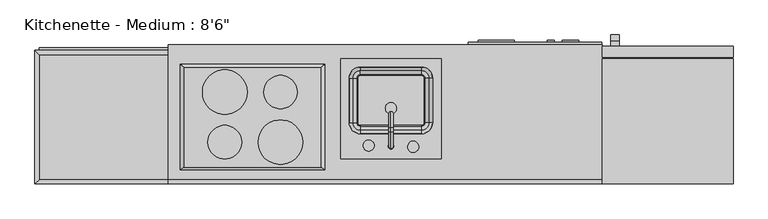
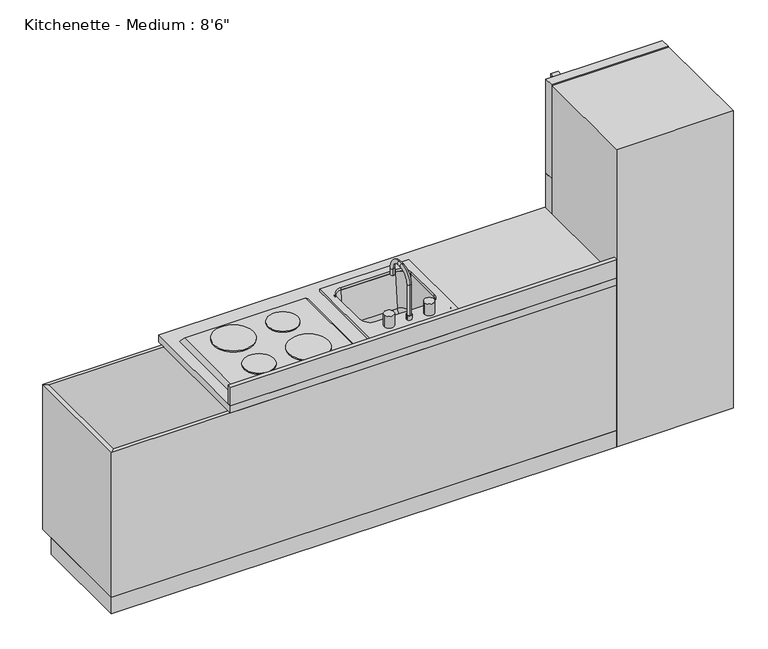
"""IFC4 building model written with IfcOpenShell, lengths in millimetres: proxy geometry."""

import ifcopenshell
import ifcopenshell.guid

model = None  # the IFC model being written
_history = None  # IfcOwnerHistory: only IFC2X3 demands one
_inside = {}  # id of a spatial element -> (the spatial element, [elements in it])
_under = {}  # id of a project, library or spatial element -> (it, [spatial elements below it])
_declared = {}  # id of a project -> (the project, [libraries it declares])
_typed = {}  # id of a type object -> (the type object, [elements of that type])
_made_of = {}  # id of a material, layer set ... -> (it, [elements and type objects made of it])


def new_model(schema):
    """Start an empty IFC model of exactly this schema.

    Asked for "IFC4X3", IfcOpenShell would pick the latest addendum, in which some entities
    have other attributes; the version numbers below select the first issue.
    IFC2X3 requires an IfcOwnerHistory on every rooted entity: one is made here for all.
    """
    global model, _history
    if schema == "IFC4X3":
        model = ifcopenshell.file(schema_version=(4, 3, 0, 0))
    else:
        model = ifcopenshell.file(schema=schema)
    _inside.clear()
    _under.clear()
    _declared.clear()
    _typed.clear()
    _made_of.clear()
    _history = None
    if model.schema == "IFC2X3":
        org = make("IfcOrganization", Name="unknown")
        user = make(
            "IfcPersonAndOrganization",
            ThePerson=make("IfcPerson", FamilyName="unknown"),
            TheOrganization=org,
        )
        app = make(
            "IfcApplication",
            ApplicationDeveloper=org,
            Version="unknown",
            ApplicationFullName="unknown",
            ApplicationIdentifier="unknown",
        )
        _history = make(
            "IfcOwnerHistory",
            OwningUser=user,
            OwningApplication=app,
            ChangeAction="ADDED",
            CreationDate=0,
        )
    return model


def make(cls, **values):
    """One entity of the class cls with the attributes given. An attribute that is None is left unset."""
    return model.create_entity(
        cls, **{name: value for name, value in values.items() if value is not None}
    )


def rooted(cls, **values):
    """An entity with a GlobalId (a new one), such as an element, a storey or a relation."""
    return make(cls, GlobalId=ifcopenshell.guid.new(), OwnerHistory=_history, **values)


def si_unit(unit_type, name, prefix=None):
    """IfcSIUnit, for example si_unit("LENGTHUNIT", "METRE", prefix="MILLI")."""
    return make("IfcSIUnit", UnitType=unit_type, Prefix=prefix, Name=name)


def assignment(units):
    """IfcUnitAssignment: the units of a project."""
    return None if units is None else make("IfcUnitAssignment", Units=units)


def point(xyz):
    """IfcCartesianPoint."""
    return None if xyz is None else make("IfcCartesianPoint", Coordinates=xyz)


def direction(xyz):
    """IfcDirection."""
    return None if xyz is None else make("IfcDirection", DirectionRatios=xyz)


def frame(location, z_axis=None, x_axis=None):
    """IfcAxis2Placement3D, a coordinate frame: its origin and axes. An axis left out is left unset."""
    return make(
        "IfcAxis2Placement3D",
        Location=point(location),
        Axis=direction(z_axis),
        RefDirection=direction(x_axis),
    )


def frame_2d(location, x_axis=None):
    """IfcAxis2Placement2D, a coordinate frame in the plane: its origin and x axis."""
    return make(
        "IfcAxis2Placement2D", Location=point(location), RefDirection=direction(x_axis)
    )


def origin():
    """The frame at (0, 0, 0) with its axes left unset."""
    return frame((0.0, 0.0, 0.0))


def origin_with_axes():
    """The frame at (0, 0, 0) with the z axis (0, 0, 1) and the x axis (1, 0, 0) written out."""
    return frame((0.0, 0.0, 0.0), z_axis=(0.0, 0.0, 1.0), x_axis=(1.0, 0.0, 0.0))


def place(relative_to, where):
    """IfcLocalPlacement: puts the frame where relative to a parent placement (None: the world)."""
    return make(
        "IfcLocalPlacement", PlacementRelTo=relative_to, RelativePlacement=where
    )


def context(
    kind, dimensions, precision=None, world=None, true_north=None, identifier=None
):
    """IfcGeometricRepresentationContext, for example the 3D "Model" context."""
    return make(
        "IfcGeometricRepresentationContext",
        ContextIdentifier=identifier,
        ContextType=kind,
        CoordinateSpaceDimension=dimensions,
        Precision=precision,
        WorldCoordinateSystem=world,
        TrueNorth=true_north,
    )


def project(units=None, contexts=None):
    """IfcProject with its units and contexts."""
    return rooted(
        "IfcProject",
        Name="project",
        RepresentationContexts=contexts,
        UnitsInContext=assignment(units),
    )


def spatial(cls, under=None, at=None, **own):
    """A site, building, storey or space (cls), placed at a placement, below another one or the project."""
    s = rooted(cls, ObjectPlacement=at, **own)
    if under is not None:
        _under.setdefault(under.id(), (under, []))[1].append(s)
    return s


def polyline(points):
    """IfcPolyline through the points."""
    return make("IfcPolyline", Points=[point(p) for p in points])


def circle_curve(where, radius):
    """IfcCircle in the frame where."""
    return make("IfcCircle", Position=where, Radius=radius)


def ellipse_curve(where, semi_axis1, semi_axis2):
    """IfcEllipse in the frame where."""
    return make(
        "IfcEllipse", Position=where, SemiAxis1=semi_axis1, SemiAxis2=semi_axis2
    )


def trimmed(basis, trim1, trim2, sense, master):
    """IfcTrimmedCurve: the piece of a basis curve between two trims."""
    return make(
        "IfcTrimmedCurve",
        BasisCurve=basis,
        Trim1=trim1,
        Trim2=trim2,
        SenseAgreement=sense,
        MasterRepresentation=master,
    )


def segment(curve, same_sense, transition):
    """IfcCompositeCurveSegment."""
    return make(
        "IfcCompositeCurveSegment",
        Transition=transition,
        SameSense=same_sense,
        ParentCurve=curve,
    )


def composite_curve(segments, self_intersect=None):
    """IfcCompositeCurve: segments joined end to end."""
    return make("IfcCompositeCurve", Segments=segments, SelfIntersect=self_intersect)


def outline(outer, holes=None, kind="AREA"):
    """IfcArbitraryClosedProfileDef: a profile drawn as a closed curve; with holes, ...WithVoids."""
    if holes is None:
        return make("IfcArbitraryClosedProfileDef", ProfileType=kind, OuterCurve=outer)
    return make(
        "IfcArbitraryProfileDefWithVoids",
        ProfileType=kind,
        OuterCurve=outer,
        InnerCurves=holes,
    )


def extrude(swept, where, along, depth):
    """IfcExtrudedAreaSolid: the profile swept, set in the frame where, extruded along a direction by depth."""
    return make(
        "IfcExtrudedAreaSolid",
        SweptArea=swept,
        Position=where,
        ExtrudedDirection=direction(along),
        Depth=depth,
    )


def faces_of(points, faces, orient=None, outer=None):
    """IfcFace entities. A face is a list of loops; a loop is a list of indices into points, from 0.

    orient and outer hold one flag for each loop. By default every Orientation is true, the
    first loop of a face is its IfcFaceOuterBound and the others are IfcFaceBound.
    """
    made = []
    for i, loops in enumerate(faces):
        bounds = []
        for j, loop in enumerate(loops):
            is_outer = j == 0 if outer is None else outer[i][j]
            bounds.append(
                make(
                    "IfcFaceOuterBound" if is_outer else "IfcFaceBound",
                    Bound=make("IfcPolyLoop", Polygon=[points[k] for k in loop]),
                    Orientation=True if orient is None else orient[i][j],
                )
            )
        made.append(make("IfcFace", Bounds=bounds))
    return made


def faceted_brep(points, faces, orient=None, outer=None, voids=None):
    """IfcFacetedBrep: a solid bounded by flat faces; with voids (closed shells), ...WithVoids."""
    shared = [point(p) for p in points]
    hull = make("IfcClosedShell", CfsFaces=faces_of(shared, faces, orient, outer))
    if voids is None:
        return make("IfcFacetedBrep", Outer=hull)
    return make(
        "IfcFacetedBrepWithVoids",
        Outer=hull,
        Voids=[
            make(cls, CfsFaces=faces_of(shared, fs, o, b)) for cls, fs, o, b in voids
        ],
    )


def shape(context_of_items, identifier, shape_type, items):
    """IfcShapeRepresentation: the items that make up one representation, for example the "Body"."""
    return make(
        "IfcShapeRepresentation",
        ContextOfItems=context_of_items,
        RepresentationIdentifier=identifier,
        RepresentationType=shape_type,
        Items=items,
    )


def source(mapping_origin, context_of_items, identifier, shape_type, items):
    """IfcRepresentationMap: a shape defined once, which mapped items show again and again."""
    return make(
        "IfcRepresentationMap",
        MappingOrigin=mapping_origin,
        MappedRepresentation=shape(context_of_items, identifier, shape_type, items),
    )


def transform(
    local_origin,
    x_axis=None,
    y_axis=None,
    z_axis=None,
    scale=None,
    scale2=None,
    scale3=None,
    uniform=True,
):
    """IfcCartesianTransformationOperator3D, or its non-uniform kind. x_axis, y_axis, z_axis: its Axis1, 2, 3."""
    if uniform:
        return make(
            "IfcCartesianTransformationOperator3D",
            Axis1=direction(x_axis),
            Axis2=direction(y_axis),
            LocalOrigin=point(local_origin),
            Scale=scale,
            Axis3=direction(z_axis),
        )
    return make(
        "IfcCartesianTransformationOperator3DnonUniform",
        Axis1=direction(x_axis),
        Axis2=direction(y_axis),
        LocalOrigin=point(local_origin),
        Scale=scale,
        Axis3=direction(z_axis),
        Scale2=scale2,
        Scale3=scale3,
    )


def mapped(mapping_source, mapping_target):
    """IfcMappedItem: shows the shape of a source again, moved by a transform."""
    return make(
        "IfcMappedItem", MappingSource=mapping_source, MappingTarget=mapping_target
    )


def made_of(thing, what):
    """Note that an element or type object is made of a material, layer set ...; save() writes the relation."""
    if what is not None:
        _made_of.setdefault(what.id(), (what, []))[1].append(thing)
    return thing


def element(
    cls,
    number,
    at=None,
    inside=None,
    cuts=None,
    type_object=None,
    material=None,
    context=None,
    identifier="Body",
    shape_type=None,
    held_by="IfcProductDefinitionShape",
    body=None,
    shapes=None,
    **own,
):
    """One element of the class cls, such as IfcWall. Its Tag is "e" and its number.

    at: its placement. inside: the storey or other place that contains it. cuts: it is an
    opening in that element (IfcRelVoidsElement). A single representation is given by context,
    identifier, shape_type and body (its items); several are given by shapes. held_by: the class
    of the entity that holds the representations. save() writes the other relations.
    """
    e = rooted(cls, Tag="e%d" % number, ObjectPlacement=at, **own)
    if body is not None:
        shapes = [shape(context, identifier, shape_type, body)]
    if shapes is not None:
        e.Representation = make(held_by, Representations=shapes)
    if inside is not None:
        _inside.setdefault(inside.id(), (inside, []))[1].append(e)
    if cuts is not None:
        rooted(
            "IfcRelVoidsElement", RelatingBuildingElement=cuts, RelatedOpeningElement=e
        )
    if type_object is not None:
        _typed.setdefault(type_object.id(), (type_object, []))[1].append(e)
    return made_of(e, material)


def aggregate(whole, parts):
    """IfcRelAggregates: a whole, such as a stair, and the parts it consists of."""
    return rooted("IfcRelAggregates", RelatingObject=whole, RelatedObjects=parts)


def save(model, path):
    """Write the relations noted so far, then the file.

    IfcRelAggregates (storeys below a building ...), IfcRelContainedInSpatialStructure (elements
    in a storey), IfcRelDefinesByType, IfcRelAssociatesMaterial and IfcRelDeclares: one each for
    every whole, place, type object, material and project.
    """
    for whole, parts in _under.values():
        aggregate(whole, parts)
    for where, things in _inside.values():
        rooted(
            "IfcRelContainedInSpatialStructure",
            RelatedElements=things,
            RelatingStructure=where,
        )
    for kind, things in _typed.values():
        rooted("IfcRelDefinesByType", RelatedObjects=things, RelatingType=kind)
    for what, things in _made_of.values():
        rooted("IfcRelAssociatesMaterial", RelatedObjects=things, RelatingMaterial=what)
    for by, libraries in _declared.values():
        rooted("IfcRelDeclares", RelatingContext=by, RelatedDefinitions=libraries)
    model.write(path)


def plane_surface(at):
    """IfcPlane: the flat surface through the origin of the frame at, square to its z axis."""
    return make("IfcPlane", Position=at)


def cylinder_surface(at, radius):
    """IfcCylindricalSurface: all points at the distance radius from the z axis of the frame at."""
    return make("IfcCylindricalSurface", Position=at, Radius=radius)


def revolved_surface(curve, axis_point, axis_direction):
    """IfcSurfaceOfRevolution: the curve turned about the line through axis_point along axis_direction."""
    return make(
        "IfcSurfaceOfRevolution",
        SweptCurve=make("IfcArbitraryOpenProfileDef", ProfileType="CURVE", Curve=curve),
        AxisPosition=make("IfcAxis1Placement", Location=point(axis_point), Axis=direction(axis_direction)),
    )


def advanced_brep(points, edges, surfaces, faces):
    """IfcAdvancedBrep: a solid bounded by faces that lie on surfaces and meet in shared edges.

    An edge is (start, end): straight between two places in points (the first is 0);
    or (start, end, curve); or (start, end, curve, False) where it runs against its curve.
    A face is (place in surfaces, loops), or (place, loops, False) where it looks against
    its surface's normal. A loop lists edges by number (the first is 1), with a minus sign
    where the edge is run from its end to its start. The first loop is the outer one.
    """
    corners = [point(p) for p in points]
    vertices = [make("IfcVertexPoint", VertexGeometry=c) for c in corners]
    made = []
    for start, end, *more in edges:
        made.append(
            make(
                "IfcEdgeCurve",
                EdgeStart=vertices[start],
                EdgeEnd=vertices[end],
                EdgeGeometry=more[0] if more else make("IfcPolyline", Points=[corners[start], corners[end]]),
                SameSense=more[1] if len(more) > 1 else True,
            )
        )
    hull = []
    for where, loops, *sense in faces:
        bounds = []
        for j, loop in enumerate(loops):
            ring = [make("IfcOrientedEdge", EdgeElement=made[abs(k) - 1], Orientation=k > 0) for k in loop]
            bounds.append(
                make(
                    "IfcFaceOuterBound" if j == 0 else "IfcFaceBound",
                    Bound=make("IfcEdgeLoop", EdgeList=ring),
                    Orientation=True,
                )
            )
        hull.append(make("IfcAdvancedFace", Bounds=bounds, FaceSurface=surfaces[where], SameSense=sense[0] if sense else True))
    return make("IfcAdvancedBrep", Outer=make("IfcClosedShell", CfsFaces=hull))


def proxy_b7eaed23(model_context):
    return source(origin(), model_context, "Body", "SolidModel", [
        extrude(outline(polyline([(911.8307496, 655.8359375), (911.8307496, 647.7), (746.7307496, 647.7), (746.7307496, 655.8359375), (911.8307496, 655.8359375)])), frame((0.0, 0.0, 780.0846419), z_axis=(0.0, 0.0, 1.0), x_axis=(1.0, 0.0, 0.0)), (0.0, 0.0, 1.0), 50.8),
        extrude(outline(composite_curve([segment(trimmed(circle_curve(frame_2d((780.0846419, 1168.9176561)), 38.1), [point((780.0846419, 1130.8176561))], [point((780.0846419, 1207.0176561))], False, "CARTESIAN"), True, "CONTINUOUS"), segment(trimmed(circle_curve(frame_2d((780.0846419, 1168.9176561)), 38.1), [point((780.0846419, 1207.0176561))], [point((780.0846419, 1130.8176561))], False, "CARTESIAN"), True, "CONTINUOUS")], self_intersect=False)), frame((0.0, 647.7, 0.0), z_axis=(0.0, 1.0, 0.0), x_axis=(0.0, 0.0, 1.0)), (0.0, 0.0, 1.0), 8.1359375),
        extrude(outline(composite_curve([segment(trimmed(circle_curve(frame_2d((780.0846419, 1079.3882607)), 15.875), [point((780.0846419, 1063.5132607))], [point((780.0846419, 1095.2632607))], False, "CARTESIAN"), True, "CONTINUOUS"), segment(trimmed(circle_curve(frame_2d((780.0846419, 1079.3882607)), 15.875), [point((780.0846419, 1095.2632607))], [point((780.0846419, 1063.5132607))], False, "CARTESIAN"), True, "CONTINUOUS")], self_intersect=False)), frame((0.0, 647.7, 0.0), z_axis=(0.0, 1.0, 0.0), x_axis=(0.0, 0.0, 1.0)), (0.0, 0.0, 1.0), 8.1359375),
        extrude(outline(polyline([(25.4, 0.0), (25.4, 863.6), (609.6, 863.6), (609.6, 101.6), (546.1, 101.6), (546.1, 0.0), (25.4, 0.0)])), frame((701.7104113, 0.0, 0.0), z_axis=(1.0, 0.0, 0.0), x_axis=(0.0, 1.0, 0.0)), (0.0, 0.0, 1.0), 609.6),
        extrude(outline(polyline([(1311.3104113, 635.0), (701.7104113, 635.0), (701.7104113, 647.7), (1311.3104113, 647.7), (1311.3104113, 635.0)])), frame((0.0, 0.0, 711.2), z_axis=(0.0, 0.0, 1.0), x_axis=(1.0, 0.0, 0.0)), (0.0, 0.0, 1.0), 152.4),
        extrude(outline(polyline([(1311.3104113, 635.0), (1311.3104113, 619.125), (701.7104113, 619.125), (701.7104113, 635.0), (1311.3104113, 635.0)])), frame((0.0, 0.0, 101.6), z_axis=(0.0, 0.0, 1.0), x_axis=(1.0, 0.0, 0.0)), (0.0, 0.0, 1.0), 762.0),
        extrude(outline(polyline([(1911.0377049, 0.0), (1314.1377049, 0.0), (1314.1377049, 571.5), (1911.0377049, 571.5), (1911.0377049, 0.0)])), origin_with_axes(), (0.0, 0.0, 1.0), 1612.9),
        extrude(outline(polyline([(1911.0377049, 577.85), (1314.1377049, 577.85), (1314.1377049, 628.65), (1911.0377049, 628.65), (1911.0377049, 577.85)])), frame((0.0, 0.0, 1106.4875), z_axis=(0.0, 0.0, 1.0), x_axis=(1.0, 0.0, 0.0)), (0.0, 0.0, 1.0), 506.4125),
        extrude(outline(polyline([(1911.0377049, 577.85), (1314.1377049, 577.85), (1314.1377049, 628.65), (1911.0377049, 628.65), (1911.0377049, 577.85)])), frame((0.0, 0.0, 76.2), z_axis=(0.0, 0.0, 1.0), x_axis=(1.0, 0.0, 0.0)), (0.0, 0.0, 1.0), 1027.1125),
        extrude(outline(polyline([(1911.0377049, 577.85), (1314.1377049, 577.85), (1314.1377049, 603.25), (1911.0377049, 603.25), (1911.0377049, 577.85)])), frame((0.0, 0.0, 9.3816357), z_axis=(0.0, 0.0, 1.0), x_axis=(1.0, 0.0, 0.0)), (0.0, 0.0, 1.0), 63.5),
        extrude(outline(polyline([(653.4883845, 1612.9), (680.028339, 1106.4875), (629.427057, 1106.4875), (629.427057, 1112.8375), (674.1496921, 1112.8375), (648.2753164, 1606.55), (629.427057, 1606.55), (629.427057, 1612.9), (653.4883845, 1612.9)])), frame((1352.2377049, 0.0, 0.0), z_axis=(1.0, 0.0, 0.0), x_axis=(0.0, 1.0, 0.0)), (0.0, 0.0, 1.0), 38.4332978),
        extrude(outline(polyline([(628.65, 1096.9625), (628.65, 1103.3125), (679.45, 1103.3125), (679.45, 900.1125), (651.5439227, 501.0370017), (628.65, 501.0370017), (628.65, 507.3715334), (645.6213702, 507.3715334), (673.1, 900.3342469), (673.1, 1096.9625), (628.65, 1096.9625)])), frame((1352.2377049, 0.0, 0.0), z_axis=(1.0, 0.0, 0.0), x_axis=(0.0, 1.0, 0.0)), (0.0, 0.0, 1.0), 38.4332978),
        extrude(outline(composite_curve([segment(trimmed(circle_curve(frame_2d((-409.8872951, 419.1)), 101.6), [point((-308.2872951, 419.1))], [point((-511.4872951, 419.1))], False, "CARTESIAN"), True, "CONTINUOUS"), segment(trimmed(circle_curve(frame_2d((-409.8872951, 419.1)), 101.6), [point((-511.4872951, 419.1))], [point((-308.2872951, 419.1))], False, "CARTESIAN"), True, "CONTINUOUS")], self_intersect=False)), frame((0.0, 0.0, 933.45), z_axis=(0.0, 0.0, 1.0), x_axis=(1.0, 0.0, 0.0)), (0.0, 0.0, 1.0), 6.35),
        faceted_brep([(28.2627049, 76.2, 933.45), (28.2627049, 533.4, 933.45), (-594.0372951, 533.4, 933.45), (-594.0372951, 76.2, 933.45), (47.3127049, 63.5, 914.4), (-613.0872951, 63.5, 914.4), (-613.0872951, 546.1, 914.4), (47.3127049, 546.1, 914.4)], [[[0, 1, 2, 3]], [[4, 5, 6, 7]], [[4, 0, 3, 5]], [[5, 3, 2, 6]], [[6, 2, 1, 7]], [[7, 1, 0, 4]]]),
        extrude(outline(composite_curve([segment(trimmed(circle_curve(frame_2d((-409.8872951, 190.5)), 76.5869489), [point((-333.3003462, 190.5))], [point((-486.474244, 190.5))], False, "CARTESIAN"), True, "CONTINUOUS"), segment(trimmed(circle_curve(frame_2d((-409.8872951, 190.5)), 76.5869489), [point((-486.474244, 190.5))], [point((-333.3003462, 190.5))], False, "CARTESIAN"), True, "CONTINUOUS")], self_intersect=False)), frame((0.0, 0.0, 933.45), z_axis=(0.0, 0.0, 1.0), x_axis=(1.0, 0.0, 0.0)), (0.0, 0.0, 1.0), 6.35),
        extrude(outline(composite_curve([segment(trimmed(circle_curve(frame_2d((-155.8872951, 190.5)), 101.6), [point((-54.2872951, 190.5))], [point((-257.4872951, 190.5))], False, "CARTESIAN"), True, "CONTINUOUS"), segment(trimmed(circle_curve(frame_2d((-155.8872951, 190.5)), 101.6), [point((-257.4872951, 190.5))], [point((-54.2872951, 190.5))], False, "CARTESIAN"), True, "CONTINUOUS")], self_intersect=False)), frame((0.0, 0.0, 933.45), z_axis=(0.0, 0.0, 1.0), x_axis=(1.0, 0.0, 0.0)), (0.0, 0.0, 1.0), 6.35),
        extrude(outline(composite_curve([segment(trimmed(circle_curve(frame_2d((-155.8872951, 419.1)), 76.2), [point((-79.6872951, 419.1))], [point((-232.0872951, 419.1))], False, "CARTESIAN"), True, "CONTINUOUS"), segment(trimmed(circle_curve(frame_2d((-155.8872951, 419.1)), 76.2), [point((-232.0872951, 419.1))], [point((-79.6872951, 419.1))], False, "CARTESIAN"), True, "CONTINUOUS")], self_intersect=False)), frame((0.0, 0.0, 933.45), z_axis=(0.0, 0.0, 1.0), x_axis=(1.0, 0.0, 0.0)), (0.0, 0.0, 1.0), 6.35),
        extrude(outline(polyline([(577.5377049, 114.3), (120.3377049, 114.3), (120.3377049, 571.5), (577.5377049, 571.5), (577.5377049, 114.3)]), holes=[composite_curve([segment(trimmed(circle_curve(frame_2d((488.6377049, 279.4)), 50.8), [point((488.6377049, 228.6))], [point((539.4377049, 279.4))], True, "CARTESIAN"), True, "CONTINUOUS"), segment(polyline([(539.4377049, 279.4), (539.4377049, 482.6)]), True, "CONTINUOUS"), segment(trimmed(circle_curve(frame_2d((488.6377049, 482.6)), 50.8), [point((539.4377049, 482.6))], [point((488.6377049, 533.4))], True, "CARTESIAN"), True, "CONTINUOUS"), segment(polyline([(488.6377049, 533.4), (209.2377049, 533.4)]), True, "CONTINUOUS"), segment(trimmed(circle_curve(frame_2d((209.2377049, 482.6)), 50.8), [point((209.2377049, 533.4))], [point((158.4377049, 482.6))], True, "CARTESIAN"), True, "CONTINUOUS"), segment(polyline([(158.4377049, 482.6), (158.4377049, 279.4)]), True, "CONTINUOUS"), segment(trimmed(circle_curve(frame_2d((209.2377049, 279.4)), 50.8), [point((158.4377049, 279.4))], [point((209.2377049, 228.6))], True, "CARTESIAN"), True, "CONTINUOUS"), segment(polyline([(209.2377049, 228.6), (488.6377049, 228.6)]), True, "CONTINUOUS")], self_intersect=False)]), frame((0.0, 0.0, 914.4), z_axis=(0.0, 0.0, 1.0), x_axis=(1.0, 0.0, 0.0)), (0.0, 0.0, 1.0), 12.7),
        advanced_brep(
        [(545.7877049, 279.4, 698.5), (545.7877049, 279.4, 914.4), (488.6377049, 222.25, 914.4), (488.6377049, 222.25, 698.5), (501.3377049, 279.4, 698.5), (488.6377049, 266.7, 698.5), (501.3377049, 279.4, 708.025), (488.6377049, 266.7, 708.025), (503.9261231, 279.4, 708.025), (488.6377049, 264.1115818, 708.025), (522.9036321, 279.4, 725.4146831), (488.6377049, 245.1340728, 725.4146831), (539.4377049, 279.4, 914.4), (488.6377049, 228.6, 914.4), (545.7877049, 482.6, 698.5), (545.7877049, 482.6, 914.4), (501.3377049, 482.6, 698.5), (501.3377049, 482.6, 708.025), (503.9261231, 482.6, 708.025), (522.9036321, 482.6, 725.4146831), (539.4377049, 482.6, 914.4), (488.6377049, 539.75, 698.5), (488.6377049, 539.75, 914.4), (488.6377049, 495.3, 698.5), (488.6377049, 495.3, 708.025), (488.6377049, 497.8884182, 708.025), (488.6377049, 516.8659272, 725.4146831), (488.6377049, 533.4, 914.4), (209.2377049, 539.75, 698.5), (209.2377049, 539.75, 914.4), (209.2377049, 495.3, 698.5), (209.2377049, 495.3, 708.025), (209.2377049, 497.8884182, 708.025), (209.2377049, 516.8659272, 725.4146831), (209.2377049, 533.4, 914.4), (152.0877049, 482.6, 698.5), (152.0877049, 482.6, 914.4), (196.5377049, 482.6, 698.5), (196.5377049, 482.6, 708.025), (193.9492867, 482.6, 708.025), (174.9717777, 482.6, 725.4146831), (158.4377049, 482.6, 914.4), (152.0877049, 279.4, 698.5), (152.0877049, 279.4, 914.4), (196.5377049, 279.4, 698.5), (196.5377049, 279.4, 708.025), (193.9492867, 279.4, 708.025), (174.9717777, 279.4, 725.4146831), (158.4377049, 279.4, 914.4), (209.2377049, 222.25, 698.5), (209.2377049, 222.25, 914.4), (209.2377049, 266.7, 698.5), (209.2377049, 266.7, 708.025), (209.2377049, 264.1115818, 708.025), (209.2377049, 245.1340728, 725.4146831), (209.2377049, 228.6, 914.4)],
        [
            (0, 1),
            (1, 2, circle_curve(frame((488.6377049, 279.4, 914.4), z_axis=(0.0, 0.0, -1.0), x_axis=(0.0, -1.0, 0.0)), 57.15)),
            (2, 3),
            (3, 0, circle_curve(frame((488.6377049, 279.4, 698.5), z_axis=(0.0, 0.0, 1.0), x_axis=(0.0, -1.0, 0.0)), 57.15)),
            (4, 0),
            (3, 5),
            (5, 4, circle_curve(frame((488.6377049, 279.4, 698.5), z_axis=(0.0, 0.0, 1.0), x_axis=(0.0, -1.0, 0.0)), 12.7)),
            (6, 4),
            (5, 7),
            (7, 6, circle_curve(frame((488.6377049, 279.4, 708.025), z_axis=(0.0, 0.0, 1.0), x_axis=(0.0, -1.0, 0.0)), 12.7)),
            (8, 6),
            (7, 9),
            (9, 8, circle_curve(frame((488.6377049, 279.4, 708.025), z_axis=(0.0, 0.0, 1.0), x_axis=(0.0, -1.0, 0.0)), 15.2884182)),
            (10, 8, circle_curve(frame((503.9261231, 279.4, 727.075), z_axis=(0.0, 1.0, 0.0), x_axis=(1.0, 0.0, 0.0)), 19.05)),
            (9, 11, circle_curve(frame((488.6377049, 264.1115818, 727.075), z_axis=(-1.0, 0.0, 0.0), x_axis=(0.0, -1.0, 0.0)), 19.05)),
            (11, 10, circle_curve(frame((488.6377049, 279.4, 725.4146831), z_axis=(0.0, 0.0, 1.0), x_axis=(0.0, -1.0, 0.0)), 34.2659272)),
            (12, 10),
            (11, 13),
            (13, 12, circle_curve(frame((488.6377049, 279.4, 914.4), z_axis=(0.0, 0.0, 1.0), x_axis=(0.0, -1.0, 0.0)), 50.8)),
            (1, 12),
            (13, 2),
            (0, 14),
            (14, 15),
            (15, 1),
            (4, 16),
            (16, 14),
            (6, 17),
            (17, 16),
            (8, 18),
            (18, 17),
            (10, 19),
            (19, 18, circle_curve(frame((503.9261231, 482.6, 727.075), z_axis=(0.0, 1.0, 0.0), x_axis=(1.0, 0.0, 0.0)), 19.05)),
            (12, 20),
            (20, 19),
            (15, 20),
            (21, 22),
            (22, 15, circle_curve(frame((488.6377049, 482.6, 914.4), z_axis=(0.0, 0.0, -1.0), x_axis=(1.0, 0.0, 0.0)), 57.15)),
            (14, 21, circle_curve(frame((488.6377049, 482.6, 698.5), z_axis=(0.0, 0.0, 1.0), x_axis=(1.0, 0.0, 0.0)), 57.15)),
            (23, 21),
            (16, 23, circle_curve(frame((488.6377049, 482.6, 698.5), z_axis=(0.0, 0.0, 1.0), x_axis=(1.0, 0.0, 0.0)), 12.7)),
            (24, 23),
            (17, 24, circle_curve(frame((488.6377049, 482.6, 708.025), z_axis=(0.0, 0.0, 1.0), x_axis=(1.0, 0.0, 0.0)), 12.7)),
            (25, 24),
            (18, 25, circle_curve(frame((488.6377049, 482.6, 708.025), z_axis=(0.0, 0.0, 1.0), x_axis=(1.0, 0.0, 0.0)), 15.2884182)),
            (26, 25, circle_curve(frame((488.6377049, 497.8884182, 727.075), z_axis=(-1.0, 0.0, 0.0), x_axis=(0.0, 1.0, 0.0)), 19.05)),
            (19, 26, circle_curve(frame((488.6377049, 482.6, 725.4146831), z_axis=(0.0, 0.0, 1.0), x_axis=(1.0, 0.0, 0.0)), 34.2659272)),
            (27, 26),
            (20, 27, circle_curve(frame((488.6377049, 482.6, 914.4), z_axis=(0.0, 0.0, 1.0), x_axis=(1.0, 0.0, 0.0)), 50.8)),
            (22, 27),
            (21, 28),
            (28, 29),
            (29, 22),
            (23, 30),
            (30, 28),
            (24, 31),
            (31, 30),
            (25, 32),
            (32, 31),
            (26, 33),
            (33, 32, circle_curve(frame((209.2377049, 497.8884182, 727.075), z_axis=(-1.0, 0.0, 0.0), x_axis=(0.0, 1.0, 0.0)), 19.05)),
            (27, 34),
            (34, 33),
            (29, 34),
            (35, 36),
            (36, 29, circle_curve(frame((209.2377049, 482.6, 914.4), z_axis=(0.0, 0.0, -1.0), x_axis=(0.0, 1.0, 0.0)), 57.15)),
            (28, 35, circle_curve(frame((209.2377049, 482.6, 698.5), z_axis=(0.0, 0.0, 1.0), x_axis=(0.0, 1.0, 0.0)), 57.15)),
            (37, 35),
            (30, 37, circle_curve(frame((209.2377049, 482.6, 698.5), z_axis=(0.0, 0.0, 1.0), x_axis=(0.0, 1.0, 0.0)), 12.7)),
            (38, 37),
            (31, 38, circle_curve(frame((209.2377049, 482.6, 708.025), z_axis=(0.0, 0.0, 1.0), x_axis=(0.0, 1.0, 0.0)), 12.7)),
            (39, 38),
            (32, 39, circle_curve(frame((209.2377049, 482.6, 708.025), z_axis=(0.0, 0.0, 1.0), x_axis=(0.0, 1.0, 0.0)), 15.2884182)),
            (40, 39, circle_curve(frame((193.9492867, 482.6, 727.075), z_axis=(0.0, -1.0, 0.0), x_axis=(-1.0, 0.0, 0.0)), 19.05)),
            (33, 40, circle_curve(frame((209.2377049, 482.6, 725.4146831), z_axis=(0.0, 0.0, 1.0), x_axis=(0.0, 1.0, 0.0)), 34.2659272)),
            (41, 40),
            (34, 41, circle_curve(frame((209.2377049, 482.6, 914.4), z_axis=(0.0, 0.0, 1.0), x_axis=(0.0, 1.0, 0.0)), 50.8)),
            (36, 41),
            (35, 42),
            (42, 43),
            (43, 36),
            (37, 44),
            (44, 42),
            (38, 45),
            (45, 44),
            (39, 46),
            (46, 45),
            (40, 47),
            (47, 46, circle_curve(frame((193.9492867, 279.4, 727.075), z_axis=(0.0, -1.0, 0.0), x_axis=(-1.0, 0.0, 0.0)), 19.05)),
            (41, 48),
            (48, 47),
            (43, 48),
            (49, 50),
            (50, 43, circle_curve(frame((209.2377049, 279.4, 914.4), z_axis=(0.0, 0.0, -1.0), x_axis=(-1.0, 0.0, 0.0)), 57.15)),
            (42, 49, circle_curve(frame((209.2377049, 279.4, 698.5), z_axis=(0.0, 0.0, 1.0), x_axis=(-1.0, 0.0, 0.0)), 57.15)),
            (51, 49),
            (44, 51, circle_curve(frame((209.2377049, 279.4, 698.5), z_axis=(0.0, 0.0, 1.0), x_axis=(-1.0, 0.0, 0.0)), 12.7)),
            (52, 51),
            (45, 52, circle_curve(frame((209.2377049, 279.4, 708.025), z_axis=(0.0, 0.0, 1.0), x_axis=(-1.0, 0.0, 0.0)), 12.7)),
            (53, 52),
            (46, 53, circle_curve(frame((209.2377049, 279.4, 708.025), z_axis=(0.0, 0.0, 1.0), x_axis=(-1.0, 0.0, 0.0)), 15.2884182)),
            (54, 53, circle_curve(frame((209.2377049, 264.1115818, 727.075), z_axis=(1.0, 0.0, 0.0), x_axis=(0.0, -1.0, 0.0)), 19.05)),
            (47, 54, circle_curve(frame((209.2377049, 279.4, 725.4146831), z_axis=(0.0, 0.0, 1.0), x_axis=(-1.0, 0.0, 0.0)), 34.2659272)),
            (55, 54),
            (48, 55, circle_curve(frame((209.2377049, 279.4, 914.4), z_axis=(0.0, 0.0, 1.0), x_axis=(-1.0, 0.0, 0.0)), 50.8)),
            (50, 55),
            (49, 3),
            (2, 50),
            (51, 5),
            (52, 7),
            (53, 9),
            (54, 11),
            (55, 13),
        ],
        [
            cylinder_surface(frame((488.6377049, 279.4, 0.0), z_axis=(0.0, 0.0, -1.0), x_axis=(0.0, -1.0, 0.0)), 57.15),
            plane_surface(frame((488.6377049, 279.4, 698.5), z_axis=(0.0, 0.0, -1.0), x_axis=(0.0, -1.0, 0.0))),
            revolved_surface(polyline([(488.6377049, 266.7, 698.5), (488.6377049, 266.7, 708.025)]), (488.6377049, 279.4, 0.0), (0.0, 0.0, -1.0)),
            plane_surface(frame((488.6377049, 279.4, 708.025), z_axis=(0.0, 0.0, 1.0), x_axis=(0.0, -1.0, 0.0))),
            revolved_surface(trimmed(ellipse_curve(frame((488.6377049, 264.1115818, 727.075), z_axis=(-1.0, 0.0, 0.0), x_axis=(0.0, -1.0, 0.0)), 19.05, 19.05), [point((488.6377049, 264.1115818, 708.025))], [point((488.6377049, 245.1340728, 725.4146831))], True, "CARTESIAN"), (488.6377049, 279.4, 0.0), (0.0, 0.0, -1.0)),
            revolved_surface(polyline([(488.6377049, 245.1340728, 725.4146831), (488.6377049, 228.6, 914.4)]), (488.6377049, 279.4, 0.0), (0.0, 0.0, -1.0)),
            plane_surface(frame((488.6377049, 279.4, 914.4), z_axis=(0.0, 0.0, 1.0), x_axis=(0.0, -1.0, 0.0))),
            plane_surface(frame((545.7877049, 279.4, 914.4), z_axis=(1.0, 0.0, 0.0), x_axis=(0.0, 1.0, 0.0))),
            plane_surface(frame((545.7877049, 279.4, 698.5), z_axis=(0.0, 0.0, -1.0), x_axis=(0.0, 1.0, 0.0))),
            plane_surface(frame((501.3377049, 279.4, 698.5), z_axis=(-1.0, 0.0, 0.0), x_axis=(0.0, 1.0, 0.0))),
            plane_surface(frame((501.3377049, 279.4, 708.025), z_axis=(0.0, 0.0, 1.0), x_axis=(0.0, 1.0, 0.0))),
            revolved_surface(polyline([(522.9761231, 482.6, 727.075), (522.9761231, 279.4, 727.075)]), (503.9261231, 279.4, 727.075), (0.0, 1.0, 0.0)),
            plane_surface(frame((522.9036321, 279.4, 725.4146831), z_axis=(-0.9961946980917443, 0.0, 0.08715574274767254), x_axis=(0.0, 1.0, 0.0))),
            plane_surface(frame((539.4377049, 279.4, 914.4), z_axis=(0.0, 0.0, 1.0), x_axis=(0.0, 1.0, 0.0))),
            cylinder_surface(frame((488.6377049, 482.6, 0.0), z_axis=(0.0, 0.0, -1.0), x_axis=(1.0, 0.0, 0.0)), 57.15),
            plane_surface(frame((488.6377049, 482.6, 698.5), z_axis=(0.0, 0.0, -1.0), x_axis=(1.0, 0.0, 0.0))),
            revolved_surface(polyline([(501.3377049, 482.6, 698.5), (501.3377049, 482.6, 708.025)]), (488.6377049, 482.6, 0.0), (0.0, 0.0, -1.0)),
            plane_surface(frame((488.6377049, 482.6, 708.025), z_axis=(0.0, 0.0, 1.0), x_axis=(1.0, 0.0, 0.0))),
            revolved_surface(trimmed(ellipse_curve(frame((503.9261231, 482.6, 727.075), z_axis=(0.0, -1.0, 0.0), x_axis=(1.0, 0.0, 0.0)), 19.05, 19.05), [point((503.9261231, 482.6, 708.025))], [point((522.9036321, 482.6, 725.4146831))], True, "CARTESIAN"), (488.6377049, 482.6, 0.0), (0.0, 0.0, -1.0)),
            revolved_surface(polyline([(522.9036321, 482.6, 725.4146831), (539.4377049, 482.6, 914.4)]), (488.6377049, 482.6, 0.0), (0.0, 0.0, -1.0)),
            plane_surface(frame((488.6377049, 482.6, 914.4), z_axis=(0.0, 0.0, 1.0), x_axis=(1.0, 0.0, 0.0))),
            plane_surface(frame((488.6377049, 539.75, 914.4), z_axis=(0.0, 1.0, 0.0), x_axis=(-1.0, 0.0, 0.0))),
            plane_surface(frame((488.6377049, 539.75, 698.5), z_axis=(0.0, 0.0, -1.0), x_axis=(-1.0, 0.0, 0.0))),
            plane_surface(frame((488.6377049, 495.3, 698.5), z_axis=(0.0, -1.0, 0.0), x_axis=(-1.0, 0.0, 0.0))),
            plane_surface(frame((488.6377049, 495.3, 708.025), z_axis=(0.0, 0.0, 1.0), x_axis=(-1.0, 0.0, 0.0))),
            revolved_surface(polyline([(209.23770490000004, 516.9384182, 727.075), (488.6377049, 516.9384182, 727.075)]), (488.6377049, 497.8884182, 727.075), (-1.0, 0.0, 0.0)),
            plane_surface(frame((488.6377049, 516.8659272, 725.4146831), z_axis=(0.0, -0.9961946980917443, 0.08715574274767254), x_axis=(-1.0, 0.0, 0.0))),
            plane_surface(frame((488.6377049, 533.4, 914.4), z_axis=(0.0, 0.0, 1.0), x_axis=(-1.0, 0.0, 0.0))),
            cylinder_surface(frame((209.2377049, 482.6, 0.0), z_axis=(0.0, 0.0, -1.0), x_axis=(0.0, 1.0, 0.0)), 57.15),
            plane_surface(frame((209.2377049, 482.6, 698.5), z_axis=(0.0, 0.0, -1.0), x_axis=(0.0, 1.0, 0.0))),
            revolved_surface(polyline([(209.2377049, 495.3, 698.5), (209.2377049, 495.3, 708.025)]), (209.2377049, 482.6, 0.0), (0.0, 0.0, -1.0)),
            plane_surface(frame((209.2377049, 482.6, 708.025), z_axis=(0.0, 0.0, 1.0), x_axis=(0.0, 1.0, 0.0))),
            revolved_surface(trimmed(ellipse_curve(frame((209.2377049, 497.8884182, 727.075), z_axis=(1.0, 0.0, 0.0), x_axis=(0.0, 1.0, 0.0)), 19.05, 19.05), [point((209.2377049, 497.8884182, 708.025))], [point((209.2377049, 516.8659272, 725.4146831))], True, "CARTESIAN"), (209.2377049, 482.6, 0.0), (0.0, 0.0, -1.0)),
            revolved_surface(polyline([(209.2377049, 516.8659272, 725.4146831), (209.2377049, 533.4, 914.4)]), (209.2377049, 482.6, 0.0), (0.0, 0.0, -1.0)),
            plane_surface(frame((209.2377049, 482.6, 914.4), z_axis=(0.0, 0.0, 1.0), x_axis=(0.0, 1.0, 0.0))),
            plane_surface(frame((152.0877049, 482.6, 914.4), z_axis=(-1.0, 0.0, 0.0), x_axis=(0.0, -1.0, 0.0))),
            plane_surface(frame((152.0877049, 482.6, 698.5), z_axis=(0.0, 0.0, -1.0), x_axis=(0.0, -1.0, 0.0))),
            plane_surface(frame((196.5377049, 482.6, 698.5), z_axis=(1.0, 0.0, 0.0), x_axis=(0.0, -1.0, 0.0))),
            plane_surface(frame((196.5377049, 482.6, 708.025), z_axis=(0.0, 0.0, 1.0), x_axis=(0.0, -1.0, 0.0))),
            revolved_surface(polyline([(174.89928669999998, 279.4, 727.075), (174.89928669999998, 482.6, 727.075)]), (193.9492867, 482.6, 727.075), (0.0, -1.0, 0.0)),
            plane_surface(frame((174.9717777, 482.6, 725.4146831), z_axis=(0.9961946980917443, 0.0, 0.08715574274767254), x_axis=(0.0, -1.0, 0.0))),
            plane_surface(frame((158.4377049, 482.6, 914.4), z_axis=(0.0, 0.0, 1.0), x_axis=(0.0, -1.0, 0.0))),
            cylinder_surface(frame((209.2377049, 279.4, 0.0), z_axis=(0.0, 0.0, -1.0), x_axis=(-1.0, 0.0, 0.0)), 57.15),
            plane_surface(frame((209.2377049, 279.4, 698.5), z_axis=(0.0, 0.0, -1.0), x_axis=(-1.0, 0.0, 0.0))),
            revolved_surface(polyline([(196.53770490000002, 279.4, 698.5), (196.53770490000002, 279.4, 708.025)]), (209.2377049, 279.4, 0.0), (0.0, 0.0, -1.0)),
            plane_surface(frame((209.2377049, 279.4, 708.025), z_axis=(0.0, 0.0, 1.0), x_axis=(-1.0, 0.0, 0.0))),
            revolved_surface(trimmed(ellipse_curve(frame((193.9492867, 279.4, 727.075), z_axis=(0.0, 1.0, 0.0), x_axis=(-1.0, 0.0, 0.0)), 19.05, 19.05), [point((193.9492867, 279.4, 708.025))], [point((174.9717777, 279.4, 725.4146831))], True, "CARTESIAN"), (209.2377049, 279.4, 0.0), (0.0, 0.0, -1.0)),
            revolved_surface(polyline([(174.9717777, 279.4, 725.4146831), (158.4377049, 279.4, 914.4)]), (209.2377049, 279.4, 0.0), (0.0, 0.0, -1.0)),
            plane_surface(frame((209.2377049, 279.4, 914.4), z_axis=(0.0, 0.0, 1.0), x_axis=(-1.0, 0.0, 0.0))),
            plane_surface(frame((209.2377049, 222.25, 914.4), z_axis=(0.0, -1.0, 0.0), x_axis=(1.0, 0.0, 0.0))),
            plane_surface(frame((209.2377049, 222.25, 698.5), z_axis=(0.0, 0.0, -1.0), x_axis=(1.0, 0.0, 0.0))),
            plane_surface(frame((209.2377049, 266.7, 698.5), z_axis=(0.0, 1.0, 0.0), x_axis=(1.0, 0.0, 0.0))),
            plane_surface(frame((209.2377049, 266.7, 708.025), z_axis=(0.0, 0.0, 1.0), x_axis=(1.0, 0.0, 0.0))),
            revolved_surface(polyline([(488.6377049, 245.0615818, 727.075), (209.2377049, 245.0615818, 727.075)]), (209.2377049, 264.1115818, 727.075), (1.0, 0.0, 0.0)),
            plane_surface(frame((209.2377049, 245.1340728, 725.4146831), z_axis=(0.0, 0.9961946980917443, 0.08715574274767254), x_axis=(1.0, 0.0, 0.0))),
            plane_surface(frame((209.2377049, 228.6, 914.4), z_axis=(0.0, 0.0, 1.0), x_axis=(1.0, 0.0, 0.0))),
        ],
        [
            (0, [[1, 2, 3, 4]]),
            (1, [[5, -4, 6, 7]]),
            (2, [[8, -7, 9, 10]]),
            (3, [[11, -10, 12, 13]]),
            (4, [[14, -13, 15, 16]]),
            (5, [[17, -16, 18, 19]]),
            (6, [[20, -19, 21, -2]]),
            (7, [[22, 23, 24, -1]]),
            (8, [[25, 26, -22, -5]]),
            (9, [[27, 28, -25, -8]]),
            (10, [[29, 30, -27, -11]]),
            (11, [[31, 32, -29, -14]]),
            (12, [[33, 34, -31, -17]]),
            (13, [[-24, 35, -33, -20]]),
            (14, [[36, 37, -23, 38]]),
            (15, [[39, -38, -26, 40]]),
            (16, [[41, -40, -28, 42]]),
            (17, [[43, -42, -30, 44]]),
            (18, [[45, -44, -32, 46]]),
            (19, [[47, -46, -34, 48]]),
            (20, [[49, -48, -35, -37]]),
            (21, [[50, 51, 52, -36]]),
            (22, [[53, 54, -50, -39]]),
            (23, [[55, 56, -53, -41]]),
            (24, [[57, 58, -55, -43]]),
            (25, [[59, 60, -57, -45]]),
            (26, [[61, 62, -59, -47]]),
            (27, [[-52, 63, -61, -49]]),
            (28, [[64, 65, -51, 66]]),
            (29, [[67, -66, -54, 68]]),
            (30, [[69, -68, -56, 70]]),
            (31, [[71, -70, -58, 72]]),
            (32, [[73, -72, -60, 74]]),
            (33, [[75, -74, -62, 76]]),
            (34, [[77, -76, -63, -65]]),
            (35, [[78, 79, 80, -64]]),
            (36, [[81, 82, -78, -67]]),
            (37, [[83, 84, -81, -69]]),
            (38, [[85, 86, -83, -71]]),
            (39, [[87, 88, -85, -73]]),
            (40, [[89, 90, -87, -75]]),
            (41, [[-80, 91, -89, -77]]),
            (42, [[92, 93, -79, 94]]),
            (43, [[95, -94, -82, 96]]),
            (44, [[97, -96, -84, 98]]),
            (45, [[99, -98, -86, 100]]),
            (46, [[101, -100, -88, 102]]),
            (47, [[103, -102, -90, 104]]),
            (48, [[105, -104, -91, -93]]),
            (49, [[106, -3, 107, -92]]),
            (50, [[108, -6, -106, -95]]),
            (51, [[109, -9, -108, -97]]),
            (52, [[110, -12, -109, -99]]),
            (53, [[111, -15, -110, -101]]),
            (54, [[112, -18, -111, -103]]),
            (55, [[-107, -21, -112, -105]]),
        ],
    ),
        extrude(outline(composite_curve([segment(polyline([(488.6377049, 266.7), (209.2377049, 266.7)]), True, "CONTINUOUS"), segment(trimmed(circle_curve(frame_2d((209.2377049, 279.4)), 12.7), [point((209.2377049, 266.7))], [point((196.5377049, 279.4))], False, "CARTESIAN"), True, "CONTINUOUS"), segment(polyline([(196.5377049, 279.4), (196.5377049, 482.6)]), True, "CONTINUOUS"), segment(trimmed(circle_curve(frame_2d((209.2377049, 482.6)), 12.7), [point((196.5377049, 482.6))], [point((209.2377049, 495.3))], False, "CARTESIAN"), True, "CONTINUOUS"), segment(polyline([(209.2377049, 495.3), (488.6377049, 495.3)]), True, "CONTINUOUS"), segment(trimmed(circle_curve(frame_2d((488.6377049, 482.6)), 12.7), [point((488.6377049, 495.3))], [point((501.3377049, 482.6))], False, "CARTESIAN"), True, "CONTINUOUS"), segment(polyline([(501.3377049, 482.6), (501.3377049, 279.4)]), True, "CONTINUOUS"), segment(trimmed(circle_curve(frame_2d((488.6377049, 279.4)), 12.7), [point((501.3377049, 279.4))], [point((488.6377049, 266.7))], False, "CARTESIAN"), True, "CONTINUOUS")], self_intersect=False), holes=[composite_curve([segment(trimmed(circle_curve(frame_2d((348.9377049, 345.2454011)), 25.4), [point((323.5377049, 345.2454011))], [point((374.3377049, 345.2454011))], True, "CARTESIAN"), True, "CONTINUOUS"), segment(trimmed(circle_curve(frame_2d((348.9377049, 345.2454011)), 25.4), [point((374.3377049, 345.2454011))], [point((323.5377049, 345.2454011))], True, "CARTESIAN"), True, "CONTINUOUS")], self_intersect=False)]), frame((0.0, 0.0, 698.5), z_axis=(0.0, 0.0, 1.0), x_axis=(1.0, 0.0, 0.0)), (0.0, 0.0, 1.0), 9.525),
        extrude(outline(composite_curve([segment(trimmed(circle_curve(frame_2d((247.3377049, 174.5287936)), 25.4), [point((221.9377049, 174.5287936))], [point((272.7377049, 174.5287936))], False, "CARTESIAN"), True, "CONTINUOUS"), segment(trimmed(circle_curve(frame_2d((247.3377049, 174.5287936)), 25.4), [point((272.7377049, 174.5287936))], [point((221.9377049, 174.5287936))], False, "CARTESIAN"), True, "CONTINUOUS")], self_intersect=False)), frame((0.0, 0.0, 927.1), z_axis=(0.0, 0.0, 1.0), x_axis=(1.0, 0.0, 0.0)), (0.0, 0.0, 1.0), 63.5),
        extrude(outline(composite_curve([segment(trimmed(circle_curve(frame_2d((450.5377049, 169.3320688)), 25.4), [point((425.1377049, 169.3320688))], [point((475.9377049, 169.3320688))], False, "CARTESIAN"), True, "CONTINUOUS"), segment(trimmed(circle_curve(frame_2d((450.5377049, 169.3320688)), 25.4), [point((475.9377049, 169.3320688))], [point((425.1377049, 169.3320688))], False, "CARTESIAN"), True, "CONTINUOUS")], self_intersect=False)), frame((0.0, 0.0, 927.1), z_axis=(0.0, 0.0, 1.0), x_axis=(1.0, 0.0, 0.0)), (0.0, 0.0, 1.0), 63.5),
        advanced_brep(
        [(348.9377049, 161.925, 927.1), (348.9377049, 180.975, 927.1), (348.9377049, 180.975, 1114.425), (348.9377049, 161.925, 1114.425), (348.9377049, 234.95, 1168.4), (348.9377049, 234.95, 1187.45), (348.9377049, 257.175, 1168.4), (348.9377049, 257.175, 1187.45), (348.9377049, 311.15, 1114.425), (348.9377049, 330.2, 1114.425), (348.9377049, 330.2, 1079.5), (348.9377049, 311.15, 1079.5)],
        [
            (0, 1, circle_curve(frame((348.9377049, 171.45, 927.1), z_axis=(0.0, 0.0, -1.0), x_axis=(0.0, 1.0, 0.0)), 9.525)),
            (1, 0, circle_curve(frame((348.9377049, 171.45, 927.1), z_axis=(0.0, 0.0, -1.0), x_axis=(0.0, 1.0, 0.0)), 9.525)),
            (1, 2),
            (2, 3, circle_curve(frame((348.9377049, 171.45, 1114.425), z_axis=(0.0, 0.0, -1.0), x_axis=(0.0, 1.0, 0.0)), 9.525)),
            (3, 0),
            (3, 2, circle_curve(frame((348.9377049, 171.45, 1114.425), z_axis=(0.0, 0.0, -1.0), x_axis=(0.0, 1.0, 0.0)), 9.525)),
            (4, 5, circle_curve(frame((348.9377049, 234.95, 1177.925), z_axis=(0.0, -1.0, 0.0), x_axis=(0.0, 0.0, -1.0)), 9.525)),
            (5, 3, circle_curve(frame((348.9377049, 234.95, 1114.425), z_axis=(1.0, 0.0, 0.0), x_axis=(0.0, -1.0, 0.0)), 73.025)),
            (2, 4, circle_curve(frame((348.9377049, 234.95, 1114.425), z_axis=(-1.0, 0.0, 0.0), x_axis=(0.0, -1.0, 0.0)), 53.975)),
            (5, 4, circle_curve(frame((348.9377049, 234.95, 1177.925), z_axis=(0.0, -1.0, 0.0), x_axis=(0.0, 0.0, -1.0)), 9.525)),
            (4, 6),
            (6, 7, circle_curve(frame((348.9377049, 257.175, 1177.925), z_axis=(0.0, -1.0, 0.0), x_axis=(0.0, 0.0, -1.0)), 9.525)),
            (7, 5),
            (7, 6, circle_curve(frame((348.9377049, 257.175, 1177.925), z_axis=(0.0, -1.0, 0.0), x_axis=(0.0, 0.0, -1.0)), 9.525)),
            (8, 9, circle_curve(frame((348.9377049, 320.675, 1114.425), z_axis=(0.0, 0.0, 1.0), x_axis=(0.0, -1.0, 0.0)), 9.525)),
            (9, 7, circle_curve(frame((348.9377049, 257.175, 1114.425), z_axis=(1.0, 0.0, 0.0), x_axis=(0.0, 0.0, 1.0)), 73.025)),
            (6, 8, circle_curve(frame((348.9377049, 257.175, 1114.425), z_axis=(-1.0, 0.0, 0.0), x_axis=(0.0, 0.0, 1.0)), 53.975)),
            (9, 8, circle_curve(frame((348.9377049, 320.675, 1114.425), z_axis=(0.0, 0.0, 1.0), x_axis=(0.0, -1.0, 0.0)), 9.525)),
            (10, 11, circle_curve(frame((348.9377049, 320.675, 1079.5), z_axis=(0.0, 0.0, -1.0), x_axis=(0.0, -1.0, 0.0)), 9.525)),
            (11, 10, circle_curve(frame((348.9377049, 320.675, 1079.5), z_axis=(0.0, 0.0, -1.0), x_axis=(0.0, -1.0, 0.0)), 9.525)),
            (8, 11),
            (10, 9),
        ],
        [
            plane_surface(frame((348.9377049, 180.975, 927.1), z_axis=(0.0, 0.0, -1.0), x_axis=(1.0, 0.0, 0.0))),
            cylinder_surface(frame((348.9377049, 171.45, 927.1), z_axis=(0.0, 0.0, -1.0), x_axis=(0.0, 1.0, 0.0)), 9.525),
            revolved_surface(trimmed(ellipse_curve(frame((348.9377049, 171.45, 1114.425), z_axis=(0.0, 0.0, 1.0), x_axis=(0.0, 1.0, 0.0)), 9.525, 9.525), [point((348.9377049, 161.925, 1114.425))], [point((348.9377049, 180.975, 1114.425))], True, "CARTESIAN"), (348.9377049, 234.95, 1114.425), (1.0, 0.0, 0.0)),
            revolved_surface(trimmed(ellipse_curve(frame((348.9377049, 171.45, 1114.425), z_axis=(0.0, 0.0, 1.0), x_axis=(0.0, 1.0, 0.0)), 9.525, 9.525), [point((348.9377049, 180.975, 1114.425))], [point((348.9377049, 161.925, 1114.425))], True, "CARTESIAN"), (348.9377049, 234.95, 1114.425), (1.0, 0.0, 0.0)),
            cylinder_surface(frame((348.9377049, 234.95, 1177.925), z_axis=(0.0, -1.0, 0.0), x_axis=(0.0, 0.0, -1.0)), 9.525),
            revolved_surface(trimmed(ellipse_curve(frame((348.9377049, 257.175, 1177.925), z_axis=(0.0, 1.0, 0.0), x_axis=(0.0, 0.0, -1.0)), 9.525, 9.525), [point((348.9377049, 257.175, 1187.45))], [point((348.9377049, 257.175, 1168.4))], True, "CARTESIAN"), (348.9377049, 257.175, 1114.425), (1.0, 0.0, 0.0)),
            revolved_surface(trimmed(ellipse_curve(frame((348.9377049, 257.175, 1177.925), z_axis=(0.0, 1.0, 0.0), x_axis=(0.0, 0.0, -1.0)), 9.525, 9.525), [point((348.9377049, 257.175, 1168.4))], [point((348.9377049, 257.175, 1187.45))], True, "CARTESIAN"), (348.9377049, 257.175, 1114.425), (1.0, 0.0, 0.0)),
            plane_surface(frame((348.9377049, 330.2, 1079.5), z_axis=(0.0, 0.0, -1.0), x_axis=(-1.0, 0.0, 0.0))),
            cylinder_surface(frame((348.9377049, 320.675, 1114.425), z_axis=(0.0, 0.0, 1.0), x_axis=(0.0, -1.0, 0.0)), 9.525),
        ],
        [
            (0, [[1, 2]]),
            (1, [[3, 4, 5, -2]]),
            (1, [[-5, 6, -3, -1]]),
            (2, [[7, 8, -4, 9]]),
            (3, [[10, -9, -6, -8]]),
            (4, [[11, 12, 13, -7]]),
            (4, [[-13, 14, -11, -10]]),
            (5, [[15, 16, -12, 17]]),
            (6, [[18, -17, -14, -16]]),
            (7, [[19, 20]]),
            (8, [[21, -19, 22, -15]]),
            (8, [[-22, -20, -21, -18]]),
        ],
    ),
        extrude(outline(composite_curve([segment(trimmed(circle_curve(frame_2d((348.9377049, 171.45)), 12.7), [point((336.2377049, 171.45))], [point((361.6377049, 171.45))], False, "CARTESIAN"), True, "CONTINUOUS"), segment(trimmed(circle_curve(frame_2d((348.9377049, 171.45)), 12.7), [point((361.6377049, 171.45))], [point((336.2377049, 171.45))], False, "CARTESIAN"), True, "CONTINUOUS")], self_intersect=False)), frame((0.0, 0.0, 927.1), z_axis=(0.0, 0.0, 1.0), x_axis=(1.0, 0.0, 0.0)), (0.0, 0.0, 1.0), 25.4),
        extrude(outline(polyline([(1314.1377049, 0.0), (-667.0622951, 0.0), (-667.0622951, 635.0), (1314.1377049, 635.0), (1314.1377049, 0.0)]), holes=[composite_curve([segment(trimmed(circle_curve(frame_2d((514.0377049, 190.5)), 50.8), [point((514.0377049, 139.7))], [point((564.8377049, 190.5))], True, "CARTESIAN"), True, "CONTINUOUS"), segment(polyline([(564.8377049, 190.5), (564.8377049, 495.3)]), True, "CONTINUOUS"), segment(trimmed(circle_curve(frame_2d((514.0377049, 495.3)), 50.8), [point((564.8377049, 495.3))], [point((514.0377049, 546.1))], True, "CARTESIAN"), True, "CONTINUOUS"), segment(polyline([(514.0377049, 546.1), (183.8377049, 546.1)]), True, "CONTINUOUS"), segment(trimmed(circle_curve(frame_2d((183.8377049, 495.3)), 50.8), [point((183.8377049, 546.1))], [point((133.0377049, 495.3))], True, "CARTESIAN"), True, "CONTINUOUS"), segment(polyline([(133.0377049, 495.3), (133.0377049, 190.5)]), True, "CONTINUOUS"), segment(trimmed(circle_curve(frame_2d((183.8377049, 190.5)), 50.8), [point((133.0377049, 190.5))], [point((183.8377049, 139.7))], True, "CARTESIAN"), True, "CONTINUOUS"), segment(polyline([(183.8377049, 139.7), (514.0377049, 139.7)]), True, "CONTINUOUS")], self_intersect=False)]), frame((0.0, 0.0, 876.3), z_axis=(0.0, 0.0, 1.0), x_axis=(1.0, 0.0, 0.0)), (0.0, 0.0, 1.0), 38.1),
        extrude(outline(polyline([(-667.0622951, 0.0), (-667.0622951, 19.05), (1314.1377049, 19.05), (1314.1377049, 0.0), (-667.0622951, 0.0)])), frame((0.0, 0.0, 914.4), z_axis=(0.0, 0.0, 1.0), x_axis=(1.0, 0.0, 0.0)), (0.0, 0.0, 1.0), 101.6),
        extrude(outline(polyline([(-16.1872951, 635.0), (-16.1872951, 622.3), (-28.8872951, 622.3), (-28.8872951, 635.0), (-16.1872951, 635.0)])), frame((0.0, 0.0, 573.769895), z_axis=(0.0, 0.0, 1.0), x_axis=(1.0, 0.0, 0.0)), (0.0, 0.0, 1.0), 124.730105),
        extrude(outline(polyline([(66.3627049, 635.0), (66.3627049, 622.3), (53.6627049, 622.3), (53.6627049, 635.0), (66.3627049, 635.0)])), frame((0.0, 0.0, 573.769895), z_axis=(0.0, 0.0, 1.0), x_axis=(1.0, 0.0, 0.0)), (0.0, 0.0, 1.0), 124.730105),
        extrude(outline(polyline([(1295.0877049, 19.05), (-1257.6122951, 19.05), (-1257.6122951, 590.55), (1295.0877049, 590.55), (1295.0877049, 19.05)])), frame((0.0, 0.0, 88.9), z_axis=(0.0, 0.0, 1.0), x_axis=(1.0, 0.0, 0.0)), (0.0, 0.0, 1.0), 19.05),
        faceted_brep([(1295.0877049, 590.55, 876.3), (-1257.6122951, 590.55, 876.3), (-1257.6122951, 590.55, 88.9), (1295.0877049, 590.55, 88.9), (1314.1377049, 609.6, 876.3), (-1276.6622951, 609.6, 876.3), (1314.1377049, 609.6, 88.9), (-1276.6622951, 609.6, 88.9), (-1257.6122951, 19.05, 876.3), (-1257.6122951, 19.05, 88.9), (-1276.6622951, 0.0, 876.3), (-1276.6622951, 0.0, 88.9), (1295.0877049, 19.05, 876.3), (1295.0877049, 19.05, 88.9), (1314.1377049, 0.0, 876.3), (1314.1377049, 0.0, 88.9)], [[[0, 1, 2, 3]], [[4, 5, 1, 0]], [[6, 7, 5, 4]], [[3, 2, 7, 6]], [[1, 8, 9, 2]], [[5, 10, 8, 1]], [[7, 11, 10, 5]], [[2, 9, 11, 7]], [[8, 12, 13, 9]], [[10, 14, 12, 8]], [[11, 15, 14, 10]], [[9, 13, 15, 11]], [[12, 0, 3, 13]], [[14, 4, 0, 12]], [[15, 6, 4, 14]], [[13, 3, 6, 15]]]),
        extrude(outline(polyline([(1314.1377049, 0.0), (-1276.6622951, 0.0), (-1276.6622951, 533.4), (1314.1377049, 533.4), (1314.1377049, 0.0)])), origin_with_axes(), (0.0, 0.0, 1.0), 88.9),
        extrude(outline(polyline([(9.2127049, 622.3), (9.2127049, 609.6), (-1257.6122951, 609.6), (-1257.6122951, 622.3), (9.2127049, 622.3)])), frame((0.0, 0.0, 107.95), z_axis=(0.0, 0.0, 1.0), x_axis=(1.0, 0.0, 0.0)), (0.0, 0.0, 1.0), 628.65),
        extrude(outline(polyline([(1295.0877049, 622.3), (1295.0877049, 609.6), (28.2627049, 609.6), (28.2627049, 622.3), (1295.0877049, 622.3)])), frame((0.0, 0.0, 107.95), z_axis=(0.0, 0.0, 1.0), x_axis=(1.0, 0.0, 0.0)), (0.0, 0.0, 1.0), 628.65),
        extrude(outline(polyline([(1295.0877049, 622.3), (1295.0877049, 609.6), (-1257.6122951, 609.6), (-1257.6122951, 622.3), (1295.0877049, 622.3)])), frame((0.0, 0.0, 755.65), z_axis=(0.0, 0.0, 1.0), x_axis=(1.0, 0.0, 0.0)), (0.0, 0.0, 1.0), 101.6),
    ])


if __name__ == "__main__":
    model = new_model("IFC4")
    model_context = context("Model", 3, world=origin())
    ifc_project = project(units=[si_unit("LENGTHUNIT", "METRE", prefix="MILLI")], contexts=[model_context])
    site = spatial("IfcSite", under=ifc_project)
    building = spatial("IfcBuilding", under=site)
    placement = place(None, origin())
    proxy_shape = proxy_b7eaed23(model_context)
    element("IfcBuildingElementProxy", 1, Name="Kitchenette - Medium : 8'6\"", ObjectType="Kitchenette - Medium : 8'6\"", at=placement, inside=building, context=model_context, shape_type="MappedRepresentation", body=[
        mapped(proxy_shape, transform((0.0, 0.0, 0.0), x_axis=(1.0, 0.0, 0.0), y_axis=(0.0, 1.0, 0.0), z_axis=(0.0, 0.0, 1.0))),
    ])
    save(model, "model.ifc")
